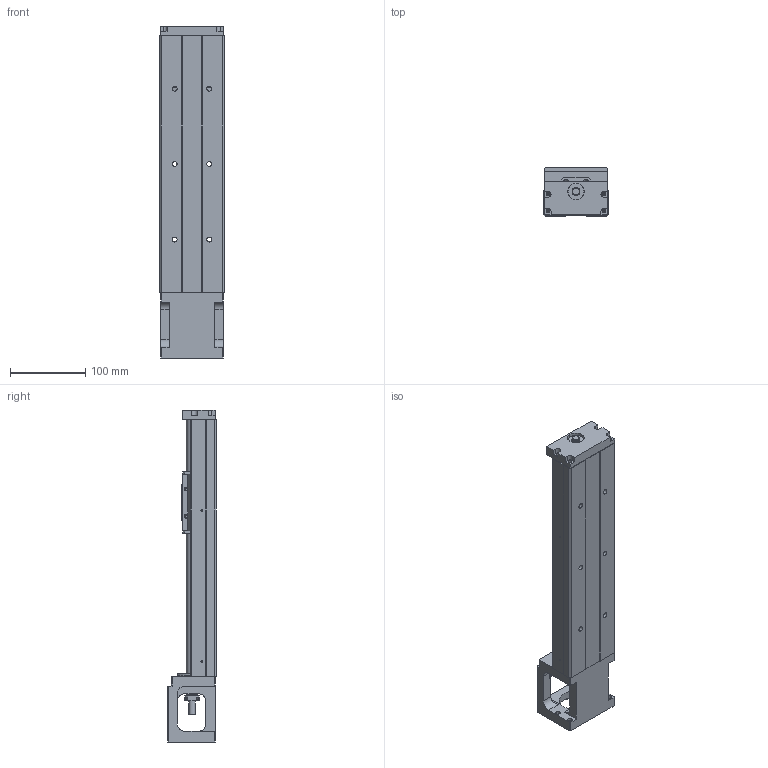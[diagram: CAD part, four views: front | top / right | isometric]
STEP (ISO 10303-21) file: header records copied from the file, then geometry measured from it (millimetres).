
FILE_DESCRIPTION(/* description */ (''),/* implementation_level */ '2;1');
FILE_NAME(/* name */ '46S-340low.stp',/* time_stamp */ '2018-02-12T11:41:48+08:00',/* author */ (''),/* organization */ (''),/* preprocessor_version */ 'ST-DEVELOPER v11',/* originating_system */ 'SIEMENS UGS NX 6.0',/* authorisation */ '');
FILE_SCHEMA (('AUTOMOTIVE_DESIGN { 1 0 10303 214 1 1 1 1 }'));
Length unit declared in the file: millimetre
Products named in the file (1): 3.069
Bounding box: 86 x 64 x 440 mm (x, y, z)
Volume: 964987.9 mm3; surface area: 206881.4 mm2
Topology: 5 solids, 16 shells, 573 faces, 1516 edges, 1006 vertices
Faces by surface type: plane 275, cylinder 206, cone 49, bspline 35, torus 8
Full cylindrical faces by diameter (mm): 2 x2, 2.11 x2, 2.15 x4, 2.42 x6, 3 x4, 3.2 x4, 3.3 x6, 3.4 x8, 4 x2, 4.2 x4, 4.5 x8, 5 x6, 6 x8, 6.35 x2, 6.6 x6, 6.7 x2, 8 x1, 8.7 x4, 9.6 x1, 10 x3, 11 x6, 12 x1, 14.95 x2, 15 x1, 16 x2, 22 x3, 27.5 x1, 44 x1, 50 x1
Entity records: 29337 total; most frequent: CARTESIAN_POINT 12189, ORIENTED_EDGE 2624, DIRECTION 2537, EDGE_CURVE 1312, VERTEX_POINT 946, AXIS2_PLACEMENT_3D 939, EDGE_LOOP 800, LINE 659
